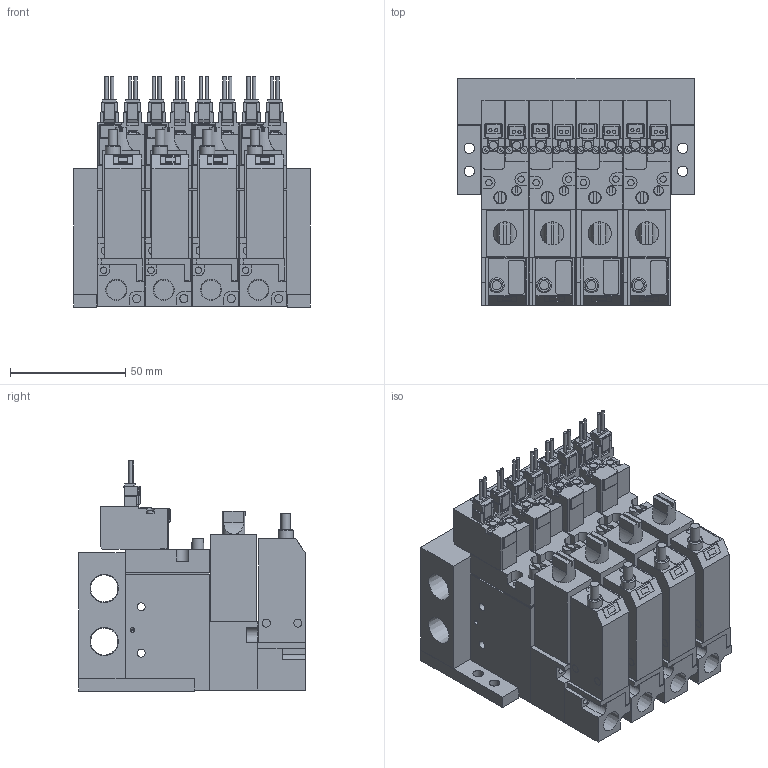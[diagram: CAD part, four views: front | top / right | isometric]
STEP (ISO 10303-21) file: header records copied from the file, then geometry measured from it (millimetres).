
FILE_DESCRIPTION(('STEP AP203'),'1');
FILE_NAME('BMPV32M2NAB25AL404.stp','2025-06-17T00:10:52',(' '),(' '),'Spatial InterOp 3D',' ',' ');
FILE_SCHEMA(('CONFIG_CONTROL_DESIGN'));
Length unit declared in the file: millimetre
Products named in the file (52): BMPV32M2NAB25AL404; Filter Assy; __; _____; MB BRACKET; MB04; Pressure sensor ABSL; ___ ___2; ___-2(Rc); ___; upper plate-A; ______; ____; VACUUM VALVE FUNCTION MPV42-A; UV280-4E
Assembly tree (51 placements, depth 2):
  BMPV32M2NAB25AL404
    Filter Assy
    __
    _____
    Filter Assy
    __
    _____
    Filter Assy
    __
    _____
    MB BRACKET
    MB BRACKET
    MB04
    Filter Assy
    __
    _____
    Pressure sensor ABSL
    ___ ___2
    ___-2(Rc)
    ___-2(Rc)
    ___ ___2
    Pressure sensor ABSL
    ___-2(Rc)
    ___ ___2
    Pressure sensor ABSL
    ___-2(Rc)
    ___ ___2
    Pressure sensor ABSL
    ___
    upper plate-A
    ______
    ____
    VACUUM VALVE FUNCTION MPV42-A
    ___
    upper plate-A
    ______
    ____
    VACUUM VALVE FUNCTION MPV42-A
    ___
    upper plate-A
    ______
    ____
    VACUUM VALVE FUNCTION MPV42-A
    ___
    upper plate-A
    ______
    ____
    VACUUM VALVE FUNCTION MPV42-A
    UV280-4E
    UV280-4E
    UV280-4E
    UV280-4E
Bounding box: 102.5 x 98 x 99.75 mm (x, y, z)
Volume: 487928.7 mm3; surface area: 161782.8 mm2
Topology: 51 solids, 51 shells, 1599 faces, 4144 edges, 2744 vertices
Faces by surface type: plane 1277, cylinder 286, cone 32, torus 4
Full cylindrical faces by diameter (mm): 1.4 x16, 1.8 x8, 2 x8, 2.5 x12, 2.8 x16, 3 x16, 3.5 x52, 4 x8, 4.2 x4, 4.5 x4, 5 x4, 5.5 x4, 6.5 x10, 8.522 x4, 11.776 x2
Entity records: 49990 total; most frequent: CARTESIAN_POINT 8523, DIRECTION 7866, ORIENTED_EDGE 7744, EDGE_CURVE 3872, LINE 3148, VECTOR 3148, VERTEX_POINT 2704, AXIS2_PLACEMENT_3D 2359
